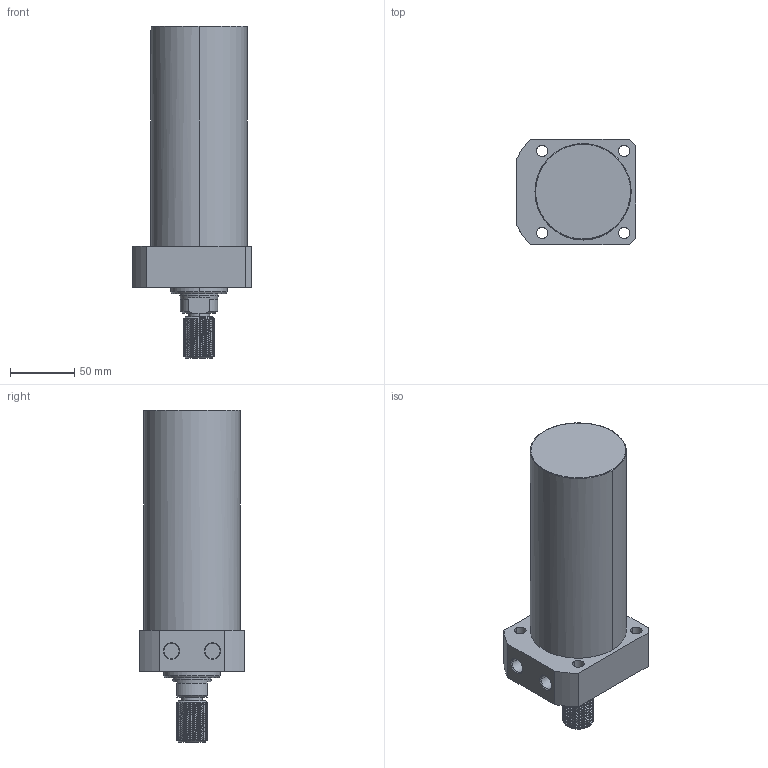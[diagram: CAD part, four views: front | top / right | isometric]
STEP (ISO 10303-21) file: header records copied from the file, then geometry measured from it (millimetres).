
FILE_DESCRIPTION((' '),'2;1');
FILE_NAME( 'TLLR-075CT-135.STEP.stp', '2025-10-24T16:35:13', (' '), ('--- Datakit www.datakit.com---'), ' Datakit CrossCadWare V2024.1 Dec 21 2023', 'Mastercam 2025', ' ');
FILE_SCHEMA(('AUTOMOTIVE_DESIGN { 1 0 10303 214 1 1 1 1 }'));
Length unit declared in the file: millimetre
Products named in the file (1): TLLR-075CT-135
Bounding box: 93 x 82 x 259 mm (x, y, z)
Volume: 1016955.7 mm3; surface area: 76496.6 mm2
Topology: 1 solids, 1 shells, 110 faces, 400 edges, 301 vertices
Faces by surface type: cylinder 69, plane 21, cone 16, torus 2, bspline 2
Entity records: 12721 total; most frequent: CARTESIAN_POINT 9327, ORIENTED_EDGE 800, DIRECTION 550, EDGE_CURVE 400, VERTEX_POINT 301, AXIS2_PLACEMENT_3D 222, B_SPLINE_CURVE_WITH_KNOTS 181, EDGE_LOOP 127
